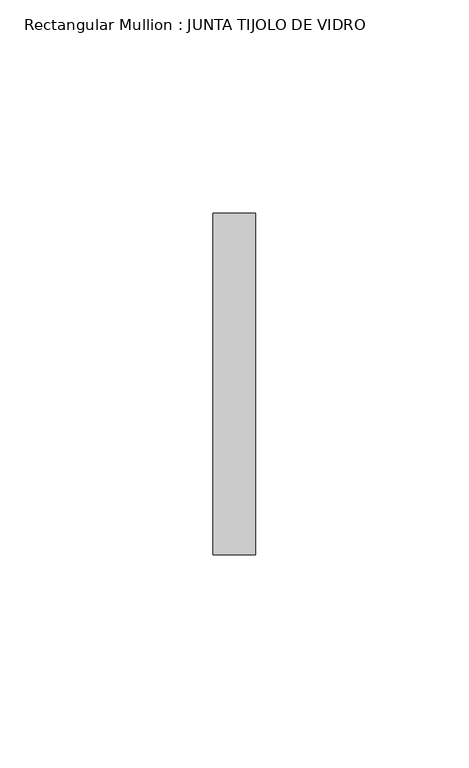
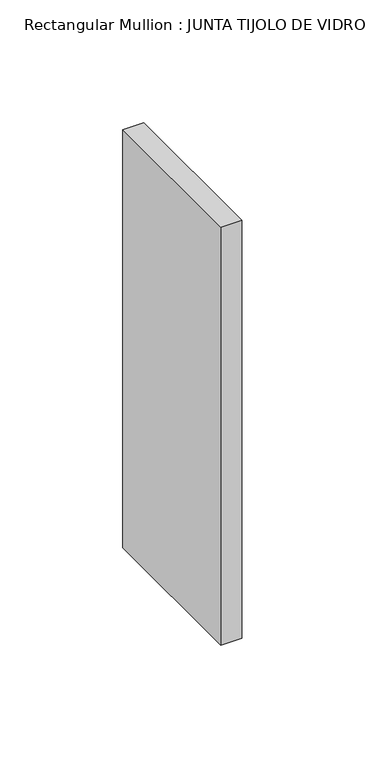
"""IFC4 building model written with IfcOpenShell, lengths in millimetres: member geometry, Rectangular Mullion : JUNTA TIJOLO DE VIDRO."""

import ifcopenshell
import ifcopenshell.guid

model = None  # the IFC model being written
_history = None  # IfcOwnerHistory: only IFC2X3 demands one
_inside = {}  # id of a spatial element -> (the spatial element, [elements in it])
_under = {}  # id of a project, library or spatial element -> (it, [spatial elements below it])
_declared = {}  # id of a project -> (the project, [libraries it declares])
_typed = {}  # id of a type object -> (the type object, [elements of that type])
_made_of = {}  # id of a material, layer set ... -> (it, [elements and type objects made of it])


def new_model(schema):
    """Start an empty IFC model of exactly this schema.

    Asked for "IFC4X3", IfcOpenShell would pick the latest addendum, in which some entities
    have other attributes; the version numbers below select the first issue.
    IFC2X3 requires an IfcOwnerHistory on every rooted entity: one is made here for all.
    """
    global model, _history
    if schema == "IFC4X3":
        model = ifcopenshell.file(schema_version=(4, 3, 0, 0))
    else:
        model = ifcopenshell.file(schema=schema)
    _inside.clear()
    _under.clear()
    _declared.clear()
    _typed.clear()
    _made_of.clear()
    _history = None
    if model.schema == "IFC2X3":
        org = make("IfcOrganization", Name="unknown")
        user = make(
            "IfcPersonAndOrganization",
            ThePerson=make("IfcPerson", FamilyName="unknown"),
            TheOrganization=org,
        )
        app = make(
            "IfcApplication",
            ApplicationDeveloper=org,
            Version="unknown",
            ApplicationFullName="unknown",
            ApplicationIdentifier="unknown",
        )
        _history = make(
            "IfcOwnerHistory",
            OwningUser=user,
            OwningApplication=app,
            ChangeAction="ADDED",
            CreationDate=0,
        )
    return model


def make(cls, **values):
    """One entity of the class cls with the attributes given. An attribute that is None is left unset."""
    return model.create_entity(
        cls, **{name: value for name, value in values.items() if value is not None}
    )


def rooted(cls, **values):
    """An entity with a GlobalId (a new one), such as an element, a storey or a relation."""
    return make(cls, GlobalId=ifcopenshell.guid.new(), OwnerHistory=_history, **values)


def si_unit(unit_type, name, prefix=None):
    """IfcSIUnit, for example si_unit("LENGTHUNIT", "METRE", prefix="MILLI")."""
    return make("IfcSIUnit", UnitType=unit_type, Prefix=prefix, Name=name)


def assignment(units):
    """IfcUnitAssignment: the units of a project."""
    return None if units is None else make("IfcUnitAssignment", Units=units)


def point(xyz):
    """IfcCartesianPoint."""
    return None if xyz is None else make("IfcCartesianPoint", Coordinates=xyz)


def direction(xyz):
    """IfcDirection."""
    return None if xyz is None else make("IfcDirection", DirectionRatios=xyz)


def frame(location, z_axis=None, x_axis=None):
    """IfcAxis2Placement3D, a coordinate frame: its origin and axes. An axis left out is left unset."""
    return make(
        "IfcAxis2Placement3D",
        Location=point(location),
        Axis=direction(z_axis),
        RefDirection=direction(x_axis),
    )


def origin():
    """The frame at (0, 0, 0) with its axes left unset."""
    return frame((0.0, 0.0, 0.0))


def place(relative_to, where):
    """IfcLocalPlacement: puts the frame where relative to a parent placement (None: the world)."""
    return make(
        "IfcLocalPlacement", PlacementRelTo=relative_to, RelativePlacement=where
    )


def context(
    kind, dimensions, precision=None, world=None, true_north=None, identifier=None
):
    """IfcGeometricRepresentationContext, for example the 3D "Model" context."""
    return make(
        "IfcGeometricRepresentationContext",
        ContextIdentifier=identifier,
        ContextType=kind,
        CoordinateSpaceDimension=dimensions,
        Precision=precision,
        WorldCoordinateSystem=world,
        TrueNorth=true_north,
    )


def project(units=None, contexts=None):
    """IfcProject with its units and contexts."""
    return rooted(
        "IfcProject",
        Name="project",
        RepresentationContexts=contexts,
        UnitsInContext=assignment(units),
    )


def spatial(cls, under=None, at=None, **own):
    """A site, building, storey or space (cls), placed at a placement, below another one or the project."""
    s = rooted(cls, ObjectPlacement=at, **own)
    if under is not None:
        _under.setdefault(under.id(), (under, []))[1].append(s)
    return s


def polyline(points):
    """IfcPolyline through the points."""
    return make("IfcPolyline", Points=[point(p) for p in points])


def outline(outer, holes=None, kind="AREA"):
    """IfcArbitraryClosedProfileDef: a profile drawn as a closed curve; with holes, ...WithVoids."""
    if holes is None:
        return make("IfcArbitraryClosedProfileDef", ProfileType=kind, OuterCurve=outer)
    return make(
        "IfcArbitraryProfileDefWithVoids",
        ProfileType=kind,
        OuterCurve=outer,
        InnerCurves=holes,
    )


def extrude(swept, where, along, depth):
    """IfcExtrudedAreaSolid: the profile swept, set in the frame where, extruded along a direction by depth."""
    return make(
        "IfcExtrudedAreaSolid",
        SweptArea=swept,
        Position=where,
        ExtrudedDirection=direction(along),
        Depth=depth,
    )


def shape(context_of_items, identifier, shape_type, items):
    """IfcShapeRepresentation: the items that make up one representation, for example the "Body"."""
    return make(
        "IfcShapeRepresentation",
        ContextOfItems=context_of_items,
        RepresentationIdentifier=identifier,
        RepresentationType=shape_type,
        Items=items,
    )


def source(mapping_origin, context_of_items, identifier, shape_type, items):
    """IfcRepresentationMap: a shape defined once, which mapped items show again and again."""
    return make(
        "IfcRepresentationMap",
        MappingOrigin=mapping_origin,
        MappedRepresentation=shape(context_of_items, identifier, shape_type, items),
    )


def transform(
    local_origin,
    x_axis=None,
    y_axis=None,
    z_axis=None,
    scale=None,
    scale2=None,
    scale3=None,
    uniform=True,
):
    """IfcCartesianTransformationOperator3D, or its non-uniform kind. x_axis, y_axis, z_axis: its Axis1, 2, 3."""
    if uniform:
        return make(
            "IfcCartesianTransformationOperator3D",
            Axis1=direction(x_axis),
            Axis2=direction(y_axis),
            LocalOrigin=point(local_origin),
            Scale=scale,
            Axis3=direction(z_axis),
        )
    return make(
        "IfcCartesianTransformationOperator3DnonUniform",
        Axis1=direction(x_axis),
        Axis2=direction(y_axis),
        LocalOrigin=point(local_origin),
        Scale=scale,
        Axis3=direction(z_axis),
        Scale2=scale2,
        Scale3=scale3,
    )


def mapped(mapping_source, mapping_target):
    """IfcMappedItem: shows the shape of a source again, moved by a transform."""
    return make(
        "IfcMappedItem", MappingSource=mapping_source, MappingTarget=mapping_target
    )


def made_of(thing, what):
    """Note that an element or type object is made of a material, layer set ...; save() writes the relation."""
    if what is not None:
        _made_of.setdefault(what.id(), (what, []))[1].append(thing)
    return thing


def element(
    cls,
    number,
    at=None,
    inside=None,
    cuts=None,
    type_object=None,
    material=None,
    context=None,
    identifier="Body",
    shape_type=None,
    held_by="IfcProductDefinitionShape",
    body=None,
    shapes=None,
    **own,
):
    """One element of the class cls, such as IfcWall. Its Tag is "e" and its number.

    at: its placement. inside: the storey or other place that contains it. cuts: it is an
    opening in that element (IfcRelVoidsElement). A single representation is given by context,
    identifier, shape_type and body (its items); several are given by shapes. held_by: the class
    of the entity that holds the representations. save() writes the other relations.
    """
    e = rooted(cls, Tag="e%d" % number, ObjectPlacement=at, **own)
    if body is not None:
        shapes = [shape(context, identifier, shape_type, body)]
    if shapes is not None:
        e.Representation = make(held_by, Representations=shapes)
    if inside is not None:
        _inside.setdefault(inside.id(), (inside, []))[1].append(e)
    if cuts is not None:
        rooted(
            "IfcRelVoidsElement", RelatingBuildingElement=cuts, RelatedOpeningElement=e
        )
    if type_object is not None:
        _typed.setdefault(type_object.id(), (type_object, []))[1].append(e)
    return made_of(e, material)


def aggregate(whole, parts):
    """IfcRelAggregates: a whole, such as a stair, and the parts it consists of."""
    return rooted("IfcRelAggregates", RelatingObject=whole, RelatedObjects=parts)


def save(model, path):
    """Write the relations noted so far, then the file.

    IfcRelAggregates (storeys below a building ...), IfcRelContainedInSpatialStructure (elements
    in a storey), IfcRelDefinesByType, IfcRelAssociatesMaterial and IfcRelDeclares: one each for
    every whole, place, type object, material and project.
    """
    for whole, parts in _under.values():
        aggregate(whole, parts)
    for where, things in _inside.values():
        rooted(
            "IfcRelContainedInSpatialStructure",
            RelatedElements=things,
            RelatingStructure=where,
        )
    for kind, things in _typed.values():
        rooted("IfcRelDefinesByType", RelatedObjects=things, RelatingType=kind)
    for what, things in _made_of.values():
        rooted("IfcRelAssociatesMaterial", RelatedObjects=things, RelatingMaterial=what)
    for by, libraries in _declared.values():
        rooted("IfcRelDeclares", RelatingContext=by, RelatedDefinitions=libraries)
    model.write(path)


def rectangular_mullion_junta_tijolo_de_vidro_f3dacb56(model_context):
    return source(origin(), model_context, "Body", "SweptSolid", [
        extrude(outline(polyline([(5.0, 40.0), (5.0, -40.0), (-5.0, -40.0), (-5.0, 40.0), (5.0, 40.0)])), frame((0.0, 0.0, -208.1818182), z_axis=(0.0, 0.0, 1.0), x_axis=(1.0, 0.0, 0.0)), (0.0, 0.0, 1.0), 208.1818182),
    ])


if __name__ == "__main__":
    model = new_model("IFC4")
    model_context = context("Model", 3, world=origin())
    ifc_project = project(units=[si_unit("LENGTHUNIT", "METRE", prefix="MILLI")], contexts=[model_context])
    site = spatial("IfcSite", under=ifc_project)
    building = spatial("IfcBuilding", under=site)
    placement = place(None, origin())
    rectangular_mullion_junta_tijolo_de_vidro_shape = rectangular_mullion_junta_tijolo_de_vidro_f3dacb56(model_context)
    element("IfcMember", 1, ObjectType="Rectangular Mullion : JUNTA TIJOLO DE VIDRO", at=placement, inside=building, context=model_context, shape_type="MappedRepresentation", body=[
        mapped(rectangular_mullion_junta_tijolo_de_vidro_shape, transform((0.0, 0.0, 0.0), x_axis=(1.0, 0.0, 0.0), y_axis=(0.0, 1.0, 0.0), z_axis=(0.0, 0.0, 1.0))),
    ])
    save(model, "model.ifc")
